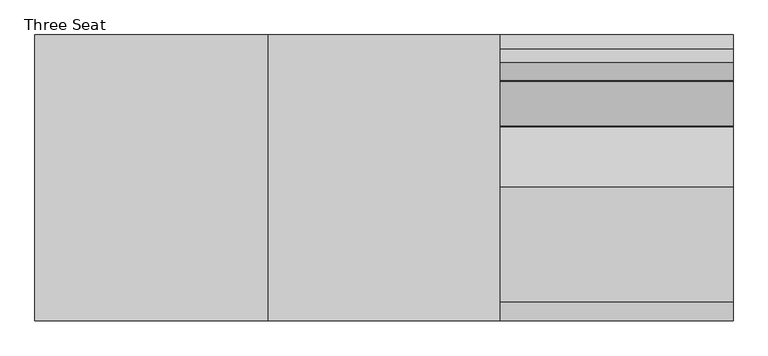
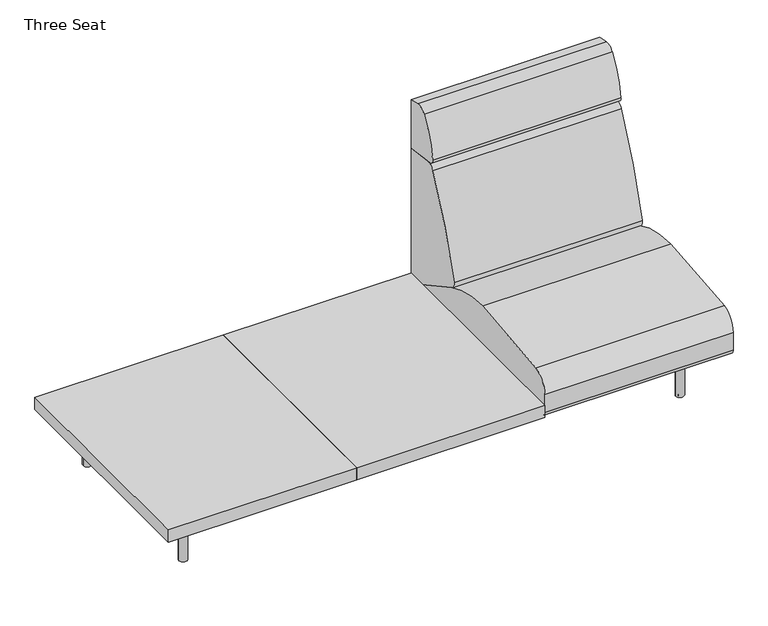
"""IFC4 building model written with IfcOpenShell, lengths in millimetres: furniture geometry, Coalesse_AM_Seating_LoungeChair_Sistema_LegBase_ThreeSeat : Three Seat."""

from ifc_helpers import new_model, si_unit, point, frame, frame_2d, origin, origin_with_axes, place, context, project, spatial, polyline, circle_curve, trimmed, segment, composite_curve, outline, extrude, source, transform, mapped, element, save


def three_seat_4d2d78b6(model_context):
    return source(origin(), model_context, "Body", "SweptSolid", [
        extrude(outline(polyline([(374.4965227, 459.4795619), (374.4965227, -461.2704381), (-374.8034773, -461.2704381), (-374.8034773, 459.4795619), (374.4965227, 459.4795619)])), frame((0.0, 0.0, 204.47), z_axis=(0.0, 0.0, 1.0), x_axis=(1.0, 0.0, 0.0)), (0.0, 0.0, 1.0), 51.0294654),
        extrude(outline(polyline([(1123.7965227, 459.4795619), (1123.7965227, -461.2704381), (374.4965227, -461.2704381), (374.4965227, 459.4795619), (1123.7965227, 459.4795619)])), frame((0.0, 0.0, 204.47), z_axis=(0.0, 0.0, 1.0), x_axis=(1.0, 0.0, 0.0)), (0.0, 0.0, 1.0), 51.0294654),
        extrude(outline(composite_curve([segment(polyline([(459.4795619, 985.4592709), (459.4795619, 780.845009), (327.9700683, 799.327463)]), True, "CONTINUOUS"), segment(trimmed(circle_curve(frame_2d((330.6213159, 818.1920697)), 19.05), [point((327.9700683, 799.327463))], [point((311.7521971, 820.8110119))], False, "CARTESIAN"), True, "CONTINUOUS"), segment(trimmed(circle_curve(frame_2d((679.5815991, 769.7580741)), 371.3554516), [point((311.7521971, 820.8110119))], [point((372.1246101, 978.0249014))], False, "CARTESIAN"), True, "CONTINUOUS"), segment(trimmed(circle_curve(frame_2d((405.8944569, 955.1497055)), 40.7881985), [point((372.1246101, 978.0249014))], [point((414.3748002, 995.046584))], False, "CARTESIAN"), True, "CONTINUOUS"), segment(polyline([(414.3748002, 995.046584), (459.4795619, 985.4592709)]), True, "CONTINUOUS")], self_intersect=False)), frame((1123.7965227, 0.0, 0.0), z_axis=(1.0, 0.0, 0.0), x_axis=(0.0, 1.0, 0.0)), (0.0, 0.0, 1.0), 749.3),
        extrude(outline(composite_curve([segment(polyline([(459.4795619, 780.845009), (459.4795619, 228.1929806)]), True, "CONTINUOUS"), segment(trimmed(circle_curve(frame_2d((191.495971, 228.1929806)), 267.983591), [point((459.4795619, 228.1929806))], [point((458.9860775, 211.937276))], False, "CARTESIAN"), True, "CONTINUOUS"), segment(polyline([(458.9860775, 211.937276), (177.4990556, 364.1028799)]), True, "CONTINUOUS"), segment(trimmed(circle_curve(frame_2d((189.5778307, 386.4470781)), 25.4), [point((177.4990556, 364.1028799))], [point((164.9600055, 392.7018911))], False, "CARTESIAN"), True, "CONTINUOUS"), segment(trimmed(circle_curve(frame_2d((1918.112812, -52.7331923)), 1808.8552115), [point((164.9600055, 392.7018911))], [point((310.2880264, 776.0349508))], False, "CARTESIAN"), True, "CONTINUOUS"), segment(trimmed(circle_curve(frame_2d((344.1537133, 758.5785695)), 38.1), [point((310.2880264, 776.0349508))], [point((349.4562085, 796.3077829))], False, "CARTESIAN"), True, "CONTINUOUS"), segment(polyline([(349.4562085, 796.3077829), (459.4795619, 780.845009)]), True, "CONTINUOUS")], self_intersect=False)), frame((1123.7965227, 0.0, 0.0), z_axis=(1.0, 0.0, 0.0), x_axis=(0.0, 1.0, 0.0)), (0.0, 0.0, 1.0), 749.3),
        extrude(outline(composite_curve([segment(trimmed(circle_curve(frame_2d((-438.9184381, 226.822)), 22.352), [point((-438.9184381, 204.47))], [point((-461.2704381, 226.822))], False, "CARTESIAN"), True, "CONTINUOUS"), segment(polyline([(-461.2704381, 226.822), (-461.2704381, 301.4421993)]), True, "CONTINUOUS"), segment(trimmed(circle_curve(frame_2d((-385.0704381, 301.4421993)), 76.2), [point((-461.2704381, 301.4421993))], [point((-398.9277015, 376.3716077))], False, "CARTESIAN"), True, "CONTINUOUS"), segment(trimmed(circle_curve(frame_2d((2.2103559, -1792.6740646)), 2205.8265729), [point((-398.9277015, 376.3716077))], [point((-31.1968175, 412.8995185))], False, "CARTESIAN"), True, "CONTINUOUS"), segment(trimmed(circle_curve(frame_2d((-24.5128424, -28.3829182)), 441.333054), [point((-31.1968175, 412.8995185))], [point((184.5757008, 360.2774035))], False, "CARTESIAN"), True, "CONTINUOUS"), segment(polyline([(184.5757008, 360.2774035), (458.9860775, 211.937276)]), True, "CONTINUOUS"), segment(trimmed(circle_curve(frame_2d((442.3266309, 226.7871991)), 22.3171991), [point((458.9860775, 211.937276))], [point((442.3266309, 204.47))], False, "CARTESIAN"), True, "CONTINUOUS"), segment(polyline([(442.3266309, 204.47), (-438.9184381, 204.47)]), True, "CONTINUOUS")], self_intersect=False)), frame((1123.7965227, 0.0, 0.0), z_axis=(1.0, 0.0, 0.0), x_axis=(0.0, 1.0, 0.0)), (0.0, 0.0, 1.0), 749.3),
        extrude(outline(composite_curve([segment(trimmed(circle_curve(frame_2d((1738.4765227, 335.9943389)), 6.096), [point((1744.5725227, 335.9943389))], [point((1732.3805227, 335.9943389))], False, "CARTESIAN"), True, "CONTINUOUS"), segment(trimmed(circle_curve(frame_2d((1738.4765227, 335.9943389)), 6.096), [point((1732.3805227, 335.9943389))], [point((1744.5725227, 335.9943389))], False, "CARTESIAN"), True, "CONTINUOUS")], self_intersect=False)), origin_with_axes(), (0.0, 0.0, 1.0), 4.3662291),
        extrude(outline(composite_curve([segment(trimmed(circle_curve(frame_2d((1738.4765227, -327.2630889)), 6.096), [point((1744.5725227, -327.2630889))], [point((1732.3805227, -327.2630889))], False, "CARTESIAN"), True, "CONTINUOUS"), segment(trimmed(circle_curve(frame_2d((1738.4765227, -327.2630889)), 6.096), [point((1732.3805227, -327.2630889))], [point((1744.5725227, -327.2630889))], False, "CARTESIAN"), True, "CONTINUOUS")], self_intersect=False)), origin_with_axes(), (0.0, 0.0, 1.0), 4.3662291),
        extrude(outline(composite_curve([segment(polyline([(157.0399209, 1751.056375), (201.7356243, 1751.056375)]), True, "CONTINUOUS"), segment(trimmed(circle_curve(frame_2d((201.7356243, 1748.008375)), 3.048), [point((201.7356243, 1751.056375))], [point((204.7836243, 1748.008375))], False, "CARTESIAN"), True, "CONTINUOUS"), segment(polyline([(204.7836243, 1748.008375), (204.7836243, 1728.666199)]), True, "CONTINUOUS"), segment(trimmed(circle_curve(frame_2d((201.7356243, 1728.666199)), 3.048), [point((204.7836243, 1728.666199))], [point((201.7356243, 1725.618199))], False, "CARTESIAN"), True, "CONTINUOUS"), segment(polyline([(201.7356243, 1725.618199), (157.1249936, 1725.618199)]), True, "CONTINUOUS"), segment(trimmed(circle_curve(frame_2d((157.1249936, 1728.7512718)), 3.1330728), [point((157.1249936, 1725.618199))], [point((153.9919209, 1728.7512718))], False, "CARTESIAN"), True, "CONTINUOUS"), segment(polyline([(153.9919209, 1728.7512718), (153.9919209, 1748.008375)]), True, "CONTINUOUS"), segment(trimmed(circle_curve(frame_2d((157.0399209, 1748.008375)), 3.048), [point((153.9919209, 1748.008375))], [point((157.0399209, 1751.056375))], False, "CARTESIAN"), True, "CONTINUOUS")], self_intersect=False)), frame((0.0, 222.3519802, 0.0), z_axis=(0.0, 1.0, 0.0), x_axis=(0.0, 0.0, 1.0)), (0.0, 0.0, 1.0), 92.6273161),
        extrude(outline(composite_curve([segment(polyline([(157.0399209, 1751.056375), (201.7356243, 1751.056375)]), True, "CONTINUOUS"), segment(trimmed(circle_curve(frame_2d((201.7356243, 1748.008375)), 3.048), [point((201.7356243, 1751.056375))], [point((204.7836243, 1748.008375))], False, "CARTESIAN"), True, "CONTINUOUS"), segment(polyline([(204.7836243, 1748.008375), (204.7836243, 1728.666199)]), True, "CONTINUOUS"), segment(trimmed(circle_curve(frame_2d((201.7356243, 1728.666199)), 3.048), [point((204.7836243, 1728.666199))], [point((201.7356243, 1725.618199))], False, "CARTESIAN"), True, "CONTINUOUS"), segment(polyline([(201.7356243, 1725.618199), (157.1249936, 1725.618199)]), True, "CONTINUOUS"), segment(trimmed(circle_curve(frame_2d((157.1249936, 1728.7512718)), 3.1330728), [point((157.1249936, 1725.618199))], [point((153.9919209, 1728.7512718))], False, "CARTESIAN"), True, "CONTINUOUS"), segment(polyline([(153.9919209, 1728.7512718), (153.9919209, 1748.008375)]), True, "CONTINUOUS"), segment(trimmed(circle_curve(frame_2d((157.0399209, 1748.008375)), 3.048), [point((153.9919209, 1748.008375))], [point((157.0399209, 1751.056375))], False, "CARTESIAN"), True, "CONTINUOUS")], self_intersect=False)), frame((0.0, -314.9792963, 0.0), z_axis=(0.0, 1.0, 0.0), x_axis=(0.0, 0.0, 1.0)), (0.0, 0.0, 1.0), 92.6273161),
        extrude(outline(composite_curve([segment(trimmed(circle_curve(frame_2d((176.3356606, 1715.8259944)), 3.048), [point((179.3836606, 1715.8259944))], [point((176.3356606, 1712.7779944))], False, "CARTESIAN"), True, "CONTINUOUS"), segment(polyline([(176.3356606, 1712.7779944), (157.0399209, 1712.7779944)]), True, "CONTINUOUS"), segment(trimmed(circle_curve(frame_2d((157.0399209, 1715.8259944)), 3.048), [point((157.0399209, 1712.7779944))], [point((153.9919209, 1715.8259944))], False, "CARTESIAN"), True, "CONTINUOUS"), segment(polyline([(153.9919209, 1715.8259944), (153.9919209, 1760.5135501)]), True, "CONTINUOUS"), segment(trimmed(circle_curve(frame_2d((157.056462, 1760.5135501)), 3.0645412), [point((153.9919209, 1760.5135501))], [point((157.056462, 1763.5780913))], False, "CARTESIAN"), True, "CONTINUOUS"), segment(polyline([(157.056462, 1763.5780913), (176.3356606, 1763.5780913)]), True, "CONTINUOUS"), segment(trimmed(circle_curve(frame_2d((176.3356606, 1760.5300913)), 3.048), [point((176.3356606, 1763.5780913))], [point((179.3836606, 1760.5300913))], False, "CARTESIAN"), True, "CONTINUOUS"), segment(polyline([(179.3836606, 1760.5300913), (179.3836606, 1715.8259944)]), True, "CONTINUOUS")], self_intersect=False)), frame((0.0, -222.3519802, 0.0), z_axis=(0.0, 1.0, 0.0), x_axis=(0.0, 0.0, 1.0)), (0.0, 0.0, 1.0), 444.7039604),
        extrude(outline(composite_curve([segment(trimmed(circle_curve(frame_2d((1738.4765227, 332.3095741)), 16.51), [point((1754.9865227, 332.3095741))], [point((1721.9665227, 332.3095741))], False, "CARTESIAN"), True, "CONTINUOUS"), segment(trimmed(circle_curve(frame_2d((1738.4765227, 332.3095741)), 16.51), [point((1721.9665227, 332.3095741))], [point((1754.9865227, 332.3095741))], False, "CARTESIAN"), True, "CONTINUOUS")], self_intersect=False)), frame((0.0, 0.0, 4.3662291), z_axis=(0.0, 0.0, 1.0), x_axis=(1.0, 0.0, 0.0)), (0.0, 0.0, 1.0), 200.1037709),
        extrude(outline(composite_curve([segment(trimmed(circle_curve(frame_2d((1738.0796477, -327.5470741)), 16.51), [point((1754.5896477, -327.5470741))], [point((1721.5696477, -327.5470741))], False, "CARTESIAN"), True, "CONTINUOUS"), segment(trimmed(circle_curve(frame_2d((1738.0796477, -327.5470741)), 16.51), [point((1721.5696477, -327.5470741))], [point((1754.5896477, -327.5470741))], False, "CARTESIAN"), True, "CONTINUOUS")], self_intersect=False)), frame((0.0, 0.0, 4.3662291), z_axis=(0.0, 0.0, 1.0), x_axis=(1.0, 0.0, 0.0)), (0.0, 0.0, 1.0), 200.1037709),
        extrude(outline(composite_curve([segment(trimmed(circle_curve(frame_2d((-240.1834773, 335.9943389)), 6.096), [point((-246.2794773, 335.9943389))], [point((-234.0874773, 335.9943389))], False, "CARTESIAN"), True, "CONTINUOUS"), segment(trimmed(circle_curve(frame_2d((-240.1834773, 335.9943389)), 6.096), [point((-234.0874773, 335.9943389))], [point((-246.2794773, 335.9943389))], False, "CARTESIAN"), True, "CONTINUOUS")], self_intersect=False)), origin_with_axes(), (0.0, 0.0, 1.0), 4.3662291),
        extrude(outline(composite_curve([segment(trimmed(circle_curve(frame_2d((-240.1834773, -327.2630889)), 6.096), [point((-246.2794773, -327.2630889))], [point((-234.0874773, -327.2630889))], False, "CARTESIAN"), True, "CONTINUOUS"), segment(trimmed(circle_curve(frame_2d((-240.1834773, -327.2630889)), 6.096), [point((-234.0874773, -327.2630889))], [point((-246.2794773, -327.2630889))], False, "CARTESIAN"), True, "CONTINUOUS")], self_intersect=False)), origin_with_axes(), (0.0, 0.0, 1.0), 4.3662291),
        extrude(outline(composite_curve([segment(trimmed(circle_curve(frame_2d((157.0399209, -249.7153296)), 3.048), [point((157.0399209, -252.7633296))], [point((153.9919209, -249.7153296))], False, "CARTESIAN"), True, "CONTINUOUS"), segment(polyline([(153.9919209, -249.7153296), (153.9919209, -230.4582264)]), True, "CONTINUOUS"), segment(trimmed(circle_curve(frame_2d((157.1249936, -230.4582264)), 3.1330728), [point((153.9919209, -230.4582264))], [point((157.1249936, -227.3251537))], False, "CARTESIAN"), True, "CONTINUOUS"), segment(polyline([(157.1249936, -227.3251537), (201.7356243, -227.3251537)]), True, "CONTINUOUS"), segment(trimmed(circle_curve(frame_2d((201.7356243, -230.3731537)), 3.048), [point((201.7356243, -227.3251537))], [point((204.7836243, -230.3731537))], False, "CARTESIAN"), True, "CONTINUOUS"), segment(polyline([(204.7836243, -230.3731537), (204.7836243, -249.7153296)]), True, "CONTINUOUS"), segment(trimmed(circle_curve(frame_2d((201.7356243, -249.7153296)), 3.048), [point((204.7836243, -249.7153296))], [point((201.7356243, -252.7633296))], False, "CARTESIAN"), True, "CONTINUOUS"), segment(polyline([(201.7356243, -252.7633296), (157.0399209, -252.7633296)]), True, "CONTINUOUS")], self_intersect=False)), frame((0.0, 222.3519802, 0.0), z_axis=(0.0, 1.0, 0.0), x_axis=(0.0, 0.0, 1.0)), (0.0, 0.0, 1.0), 92.6273161),
        extrude(outline(composite_curve([segment(trimmed(circle_curve(frame_2d((157.0399209, -249.7153296)), 3.048), [point((157.0399209, -252.7633296))], [point((153.9919209, -249.7153296))], False, "CARTESIAN"), True, "CONTINUOUS"), segment(polyline([(153.9919209, -249.7153296), (153.9919209, -230.4582264)]), True, "CONTINUOUS"), segment(trimmed(circle_curve(frame_2d((157.1249936, -230.4582264)), 3.1330728), [point((153.9919209, -230.4582264))], [point((157.1249936, -227.3251537))], False, "CARTESIAN"), True, "CONTINUOUS"), segment(polyline([(157.1249936, -227.3251537), (201.7356243, -227.3251537)]), True, "CONTINUOUS"), segment(trimmed(circle_curve(frame_2d((201.7356243, -230.3731537)), 3.048), [point((201.7356243, -227.3251537))], [point((204.7836243, -230.3731537))], False, "CARTESIAN"), True, "CONTINUOUS"), segment(polyline([(204.7836243, -230.3731537), (204.7836243, -249.7153296)]), True, "CONTINUOUS"), segment(trimmed(circle_curve(frame_2d((201.7356243, -249.7153296)), 3.048), [point((204.7836243, -249.7153296))], [point((201.7356243, -252.7633296))], False, "CARTESIAN"), True, "CONTINUOUS"), segment(polyline([(201.7356243, -252.7633296), (157.0399209, -252.7633296)]), True, "CONTINUOUS")], self_intersect=False)), frame((0.0, -314.9792963, 0.0), z_axis=(0.0, 1.0, 0.0), x_axis=(0.0, 0.0, 1.0)), (0.0, 0.0, 1.0), 92.6273161),
        extrude(outline(composite_curve([segment(polyline([(179.3836606, -217.532949), (179.3836606, -262.2370459)]), True, "CONTINUOUS"), segment(trimmed(circle_curve(frame_2d((176.3356606, -262.2370459)), 3.048), [point((179.3836606, -262.2370459))], [point((176.3356606, -265.2850459))], False, "CARTESIAN"), True, "CONTINUOUS"), segment(polyline([(176.3356606, -265.2850459), (157.056462, -265.2850459)]), True, "CONTINUOUS"), segment(trimmed(circle_curve(frame_2d((157.056462, -262.2205047)), 3.0645412), [point((157.056462, -265.2850459))], [point((153.9919209, -262.2205047))], False, "CARTESIAN"), True, "CONTINUOUS"), segment(polyline([(153.9919209, -262.2205047), (153.9919209, -217.532949)]), True, "CONTINUOUS"), segment(trimmed(circle_curve(frame_2d((157.0399209, -217.532949)), 3.048), [point((153.9919209, -217.532949))], [point((157.0399209, -214.484949))], False, "CARTESIAN"), True, "CONTINUOUS"), segment(polyline([(157.0399209, -214.484949), (176.3356606, -214.484949)]), True, "CONTINUOUS"), segment(trimmed(circle_curve(frame_2d((176.3356606, -217.532949)), 3.048), [point((176.3356606, -214.484949))], [point((179.3836606, -217.532949))], False, "CARTESIAN"), True, "CONTINUOUS")], self_intersect=False)), frame((0.0, -222.3519802, 0.0), z_axis=(0.0, 1.0, 0.0), x_axis=(0.0, 0.0, 1.0)), (0.0, 0.0, 1.0), 444.7039604),
        extrude(outline(composite_curve([segment(trimmed(circle_curve(frame_2d((-240.1834773, 332.3095741)), 16.51), [point((-256.6934773, 332.3095741))], [point((-223.6734773, 332.3095741))], False, "CARTESIAN"), True, "CONTINUOUS"), segment(trimmed(circle_curve(frame_2d((-240.1834773, 332.3095741)), 16.51), [point((-223.6734773, 332.3095741))], [point((-256.6934773, 332.3095741))], False, "CARTESIAN"), True, "CONTINUOUS")], self_intersect=False)), frame((0.0, 0.0, 4.3662291), z_axis=(0.0, 0.0, 1.0), x_axis=(1.0, 0.0, 0.0)), (0.0, 0.0, 1.0), 200.1037709),
        extrude(outline(composite_curve([segment(trimmed(circle_curve(frame_2d((-239.7866023, -327.5470741)), 16.51), [point((-256.2966023, -327.5470741))], [point((-223.2766023, -327.5470741))], False, "CARTESIAN"), True, "CONTINUOUS"), segment(trimmed(circle_curve(frame_2d((-239.7866023, -327.5470741)), 16.51), [point((-223.2766023, -327.5470741))], [point((-256.2966023, -327.5470741))], False, "CARTESIAN"), True, "CONTINUOUS")], self_intersect=False)), frame((0.0, 0.0, 4.3662291), z_axis=(0.0, 0.0, 1.0), x_axis=(1.0, 0.0, 0.0)), (0.0, 0.0, 1.0), 200.1037709),
    ])


if __name__ == "__main__":
    model = new_model("IFC4")
    model_context = context("Model", 3, world=origin())
    ifc_project = project(units=[si_unit("LENGTHUNIT", "METRE", prefix="MILLI")], contexts=[model_context])
    site = spatial("IfcSite", under=ifc_project)
    building = spatial("IfcBuilding", under=site)
    placement = place(None, origin())
    three_seat_shape = three_seat_4d2d78b6(model_context)
    element("IfcFurniture", 1, ObjectType="Coalesse_AM_Seating_LoungeChair_Sistema_LegBase_ThreeSeat : Three Seat", at=placement, inside=building, context=model_context, shape_type="MappedRepresentation", body=[
        mapped(three_seat_shape, transform((0.0, 0.0, 0.0), x_axis=(1.0, 0.0, 0.0), y_axis=(0.0, 1.0, 0.0), z_axis=(0.0, 0.0, 1.0))),
    ])
    save(model, "model.ifc")
